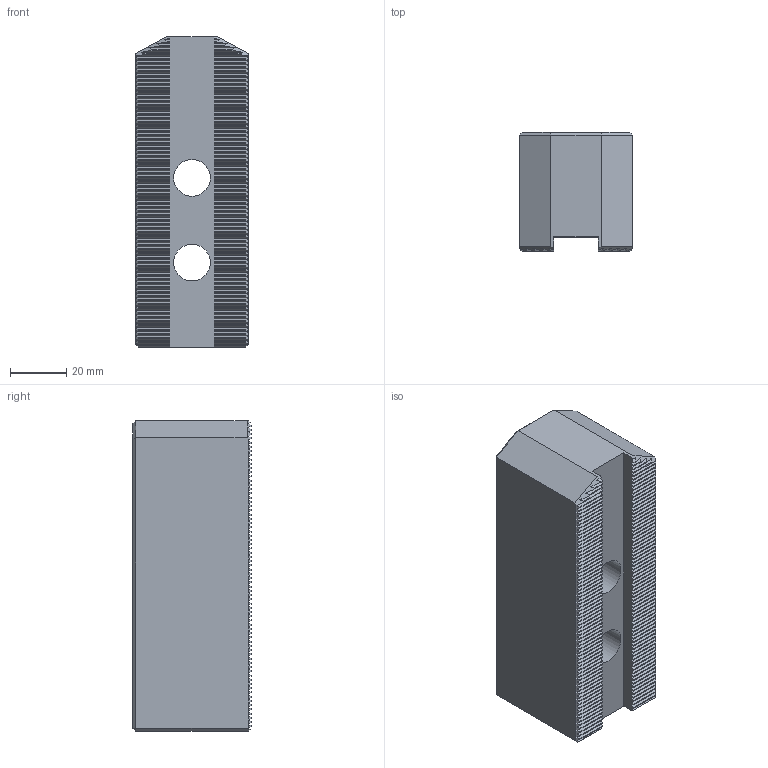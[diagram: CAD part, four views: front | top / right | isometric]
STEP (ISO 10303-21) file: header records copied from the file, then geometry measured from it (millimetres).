
FILE_DESCRIPTION(/* description */ (''),/* implementation_level */ '2;1');
FILE_NAME(/* name */ 'SC-10 120.stp',/* time_stamp */ '2024-09-11T15:00:33+03:00',/* author */ ('KanaanMD'),/* organization */ (''),/* preprocessor_version */ 'ST-DEVELOPER v19.2',/* originating_system */ 'Autodesk Inventor 2024',/* authorisation */ '');
FILE_SCHEMA (('AUTOMOTIVE_DESIGN { 1 0 10303 214 3 1 1 }'));
Length unit declared in the file: millimetre
Products named in the file (1): SC-10 120°
Bounding box: 40 x 42 x 110 mm (x, y, z)
Volume: 154001.1 mm3; surface area: 26647.2 mm2
Topology: 1 solids, 1 shells, 610 faces, 1528 edges, 922 vertices
Faces by surface type: plane 604, cylinder 4, cone 2
Full cylindrical faces by diameter (mm): 13 x2, 19 x2
Entity records: 17495 total; most frequent: CARTESIAN_POINT 3061, ORIENTED_EDGE 3056, DIRECTION 2762, EDGE_CURVE 1528, LINE 1516, VECTOR 1516, VERTEX_POINT 922, AXIS2_PLACEMENT_3D 623
